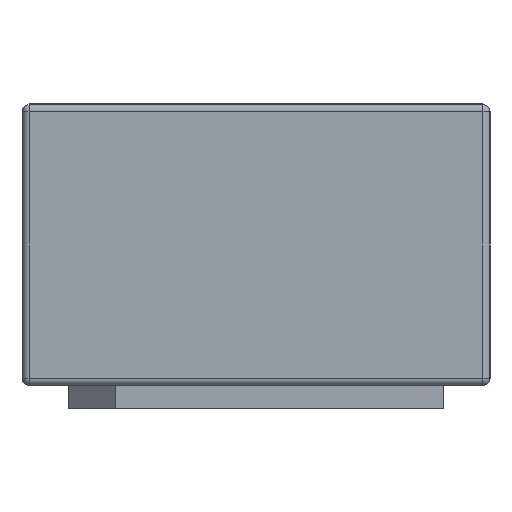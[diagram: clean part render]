
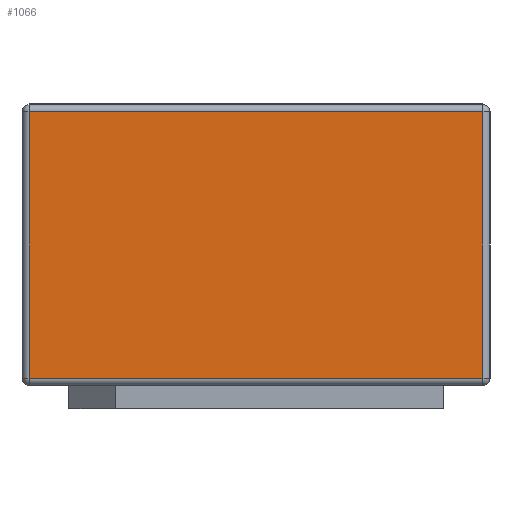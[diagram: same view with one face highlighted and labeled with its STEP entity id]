
A CAD part, left-side view. The second image highlights one B-rep face of the part: STEP entity #1066.
In plain terms, the highlighted planar face has unit normal (-1, 0, 0).
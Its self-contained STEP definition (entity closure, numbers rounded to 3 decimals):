
#44=PLANE('',#1264);
#88=LINE('',#1694,#199);
#93=LINE('',#1729,#204);
#95=LINE('',#1732,#206);
#109=LINE('',#1760,#220);
#199=VECTOR('',#1361,10.);
#204=VECTOR('',#1402,10.);
#206=VECTOR('',#1406,10.);
#220=VECTOR('',#1442,10.);
#349=FACE_OUTER_BOUND('',#420,.T.);
#420=EDGE_LOOP('',(#819,#820,#821,#822));
#508=VERTEX_POINT('',#1676);
#512=VERTEX_POINT('',#1687);
#515=VERTEX_POINT('',#1697);
#526=VERTEX_POINT('',#1724);
#605=EDGE_CURVE('',#512,#508,#88,.T.);
#622=EDGE_CURVE('',#515,#526,#93,.T.);
#624=EDGE_CURVE('',#526,#512,#95,.T.);
#641=EDGE_CURVE('',#508,#515,#109,.T.);
#819=ORIENTED_EDGE('',*,*,#622,.F.);
#820=ORIENTED_EDGE('',*,*,#641,.F.);
#821=ORIENTED_EDGE('',*,*,#605,.F.);
#822=ORIENTED_EDGE('',*,*,#624,.F.);
#1066=ADVANCED_FACE('',(#349),#44,.T.);
#1264=AXIS2_PLACEMENT_3D('',#1765,#1449,#1450);
#1361=DIRECTION('',(0.,-1.,0.));
#1402=DIRECTION('',(0.,1.,0.));
#1406=DIRECTION('',(0.,0.,1.));
#1442=DIRECTION('',(0.,0.,-1.));
#1449=DIRECTION('center_axis',(-1.,0.,0.));
#1450=DIRECTION('ref_axis',(0.,0.,1.));
#1676=CARTESIAN_POINT('',(-0.8,-0.485,0.635));
#1687=CARTESIAN_POINT('',(-0.8,0.485,0.635));
#1694=CARTESIAN_POINT('',(-0.8,0.,0.635));
#1697=CARTESIAN_POINT('',(-0.8,-0.485,0.065));
#1724=CARTESIAN_POINT('',(-0.8,0.485,0.065));
#1729=CARTESIAN_POINT('',(-0.8,0.,0.065));
#1732=CARTESIAN_POINT('',(-0.8,0.485,0.2));
#1760=CARTESIAN_POINT('',(-0.8,-0.485,0.2));
#1765=CARTESIAN_POINT('Origin',(-0.8,0.,0.05));
